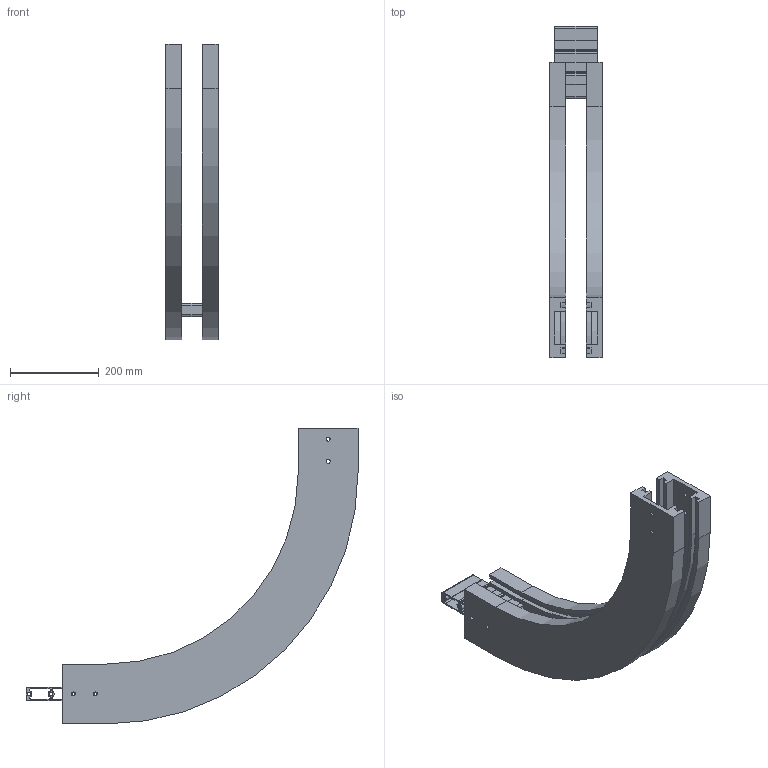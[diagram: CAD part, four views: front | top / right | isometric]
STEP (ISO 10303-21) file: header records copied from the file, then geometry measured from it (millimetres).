
FILE_DESCRIPTION (( 'STEP AP203' ), '1' );
FILE_NAME ('R3CV500-90.STEP', '2009-01-13T08:21:21', ( 'faber' ), ( '' ), 'SwSTEP 2.0', 'SolidWorks 2008', '' );
FILE_SCHEMA (( 'CONFIG_CONTROL_DESIGN' ));
Length unit declared in the file: millimetre
Products named in the file (1): R3CV500-90
Bounding box: 118 x 749.25 x 667.5 mm (x, y, z)
Surface area: 826472.5 mm2 (no closed solid volume)
Topology: 0 solids, 3 shells, 165 faces, 751 edges, 560 vertices
Faces by surface type: plane 87, cylinder 78
Entity records: 7810 total; most frequent: CARTESIAN_POINT 1477, DIRECTION 1355, ORIENTED_EDGE 1196, EDGE_CURVE 751, VERTEX_POINT 560, VECTOR 479, LINE 479, AXIS2_PLACEMENT_3D 438
